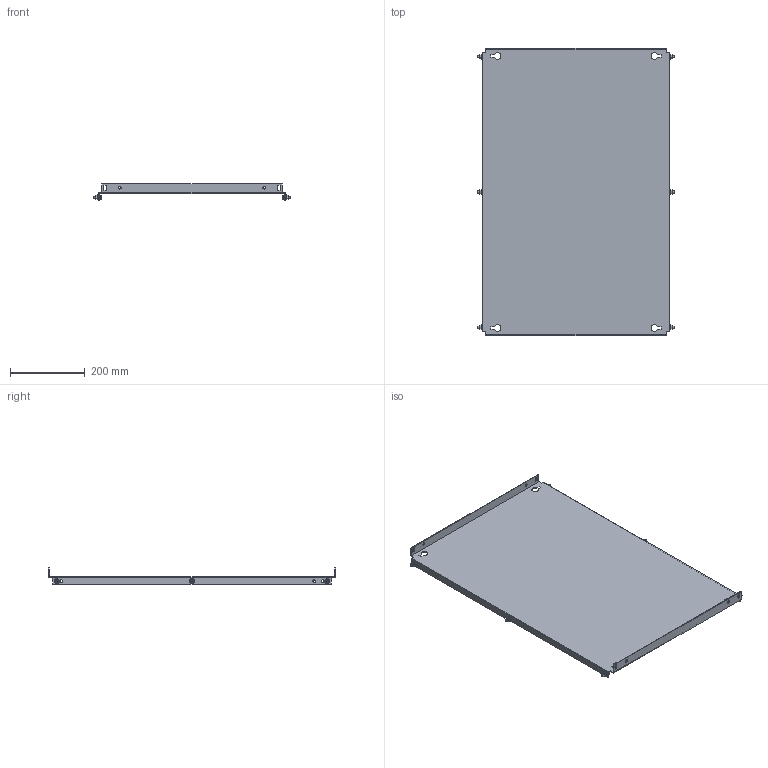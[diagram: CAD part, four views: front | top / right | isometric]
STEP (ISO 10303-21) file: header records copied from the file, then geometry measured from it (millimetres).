
FILE_DESCRIPTION(('Open CASCADE Model'),'2;1');
FILE_NAME('Open CASCADE Shape Model','2025-02-20T13:24:48',('Author'),( 'Open CASCADE'),'Open CASCADE STEP processor 7.8','Open CASCADE 7.8' ,'Unknown');
FILE_SCHEMA(('AUTOMOTIVE_DESIGN { 1 0 10303 214 1 1 1 1 }'));
Length unit declared in the file: millimetre
Products named in the file (4): Compound1; Solid1; Solid2; Solid3
Assembly tree (13 placements, depth 2):
  Compound1
    Solid1
    Solid2  x6
    Solid3  x6
Bounding box: 528 x 769 x 43 mm (x, y, z)
Volume: 870380.6 mm3; surface area: 875973.3 mm2
Topology: 13 solids, 13 shells, 422 faces, 1010 edges, 620 vertices
Faces by surface type: plane 192, cone 102, bspline 72, cylinder 38, torus 18
Full cylindrical faces by diameter (mm): 5 x6, 6 x12, 7 x16
Entity records: 5048 total; most frequent: CARTESIAN_POINT 1397, ORIENTED_EDGE 770, DIRECTION 664, EDGE_CURVE 385, VERTEX_POINT 250, AXIS2_PLACEMENT_3D 224, LINE 216, VECTOR 216
